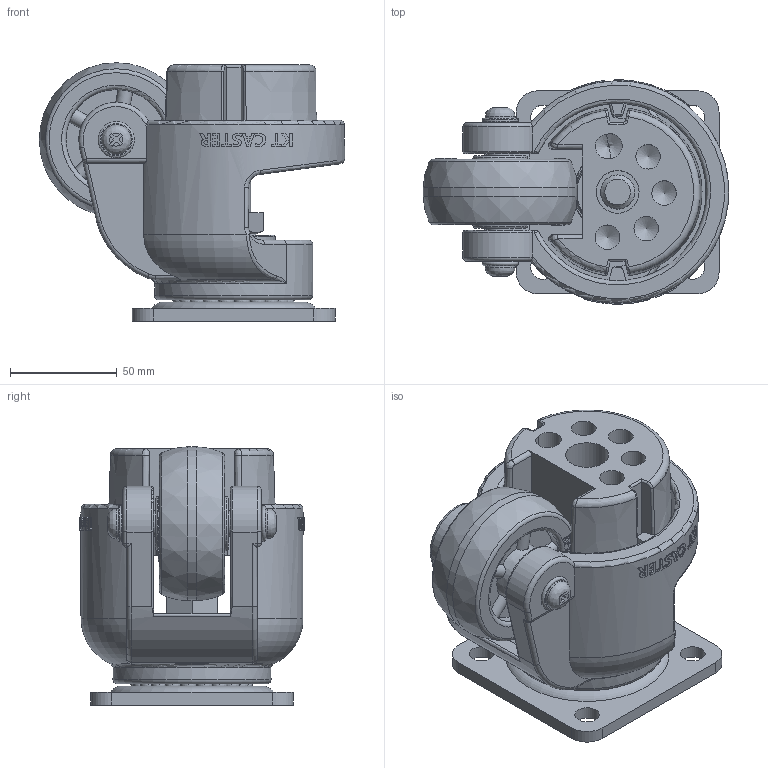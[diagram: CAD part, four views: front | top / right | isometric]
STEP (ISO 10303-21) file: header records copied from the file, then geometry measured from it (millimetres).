
FILE_DESCRIPTION(/* description */ ('Ruota con piastra e piedino di sollevamento D.72'),/* implementation_level */ '2;1');
FILE_NAME(/* name */ 'C:\Users\Stefan.Nesic\Desktop\01010STEP\000Verifica\CORRETTI\LC75.stp',/* time_stamp */ '2022-07-11T16:38:37+02:00',/* author */ ('stefan.nesic'),/* organization */ (''),/* preprocessor_version */ 'ST-DEVELOPER v18.1',/* originating_system */ 'Autodesk Inventor 2021',/* authorisation */ '');
FILE_SCHEMA (('AUTOMOTIVE_DESIGN { 1 0 10303 214 3 1 1 }'));
Length unit declared in the file: millimetre
Products named in the file (1): LC75
Bounding box: 143 x 105 x 121 mm (x, y, z)
Volume: 604161.8 mm3; surface area: 155312.1 mm2
Topology: 56 solids, 56 shells, 1333 faces, 3481 edges, 2243 vertices
Faces by surface type: plane 769, cylinder 230, bspline 175, torus 80, sphere 52, cone 27
Full cylindrical faces by diameter (mm): 6.647 x2, 8 x2, 9.5 x1, 11.5 x8, 12 x1, 12.2 x1, 12.5 x3, 13.5 x1, 14 x2, 16 x1, 17 x1, 18.917 x1, 20 x2, 22 x1, 25 x1, 26 x1, 30 x1, 39 x1, 41.5 x1, 47 x2, 72 x1, 74 x1
Entity records: 51514 total; most frequent: CARTESIAN_POINT 19782, ORIENTED_EDGE 6754, DIRECTION 6132, EDGE_CURVE 3377, VERTEX_POINT 2242, AXIS2_PLACEMENT_3D 2162, LINE 1808, VECTOR 1808
